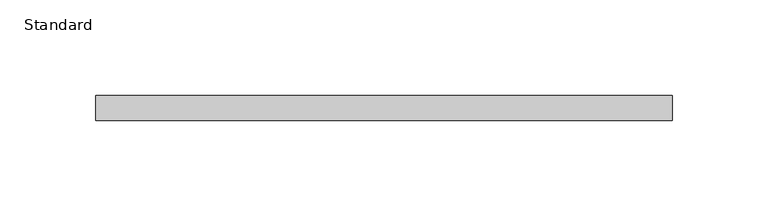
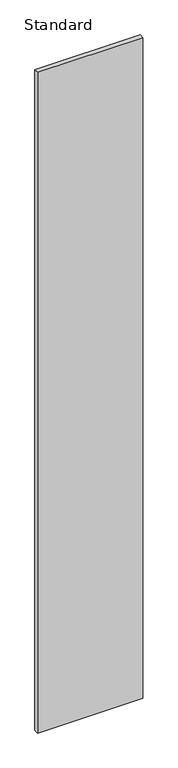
"""IFC4 building model written with IfcOpenShell, lengths in millimetres: furniture geometry, X_Partition-Compact Laminate-Duracube-Rectangular : Standard."""

from ifc_helpers import new_model, si_unit, origin, origin_with_axes, place, context, project, spatial, polyline, outline, extrude, source, transform, mapped, element, save


def standard_c02571ef(model_context):
    return source(origin(), model_context, "Body", "SweptSolid", [
        extrude(outline(polyline([(195.2003264, 0.0), (195.2003264, -13.0), (-105.7996736, -13.0), (-105.7996736, 0.0), (195.2003264, 0.0)])), origin_with_axes(), (0.0, 0.0, 1.0), 1999.0),
    ])


if __name__ == "__main__":
    model = new_model("IFC4")
    model_context = context("Model", 3, world=origin())
    ifc_project = project(units=[si_unit("LENGTHUNIT", "METRE", prefix="MILLI")], contexts=[model_context])
    site = spatial("IfcSite", under=ifc_project)
    building = spatial("IfcBuilding", under=site)
    placement = place(None, origin())
    standard_shape = standard_c02571ef(model_context)
    element("IfcFurniture", 1, ObjectType="X_Partition-Compact Laminate-Duracube-Rectangular : Standard", at=placement, inside=building, context=model_context, shape_type="MappedRepresentation", body=[
        mapped(standard_shape, transform((0.0, 0.0, 0.0), x_axis=(1.0, 0.0, 0.0), y_axis=(0.0, 1.0, 0.0), z_axis=(0.0, 0.0, 1.0))),
    ])
    save(model, "model.ifc")
